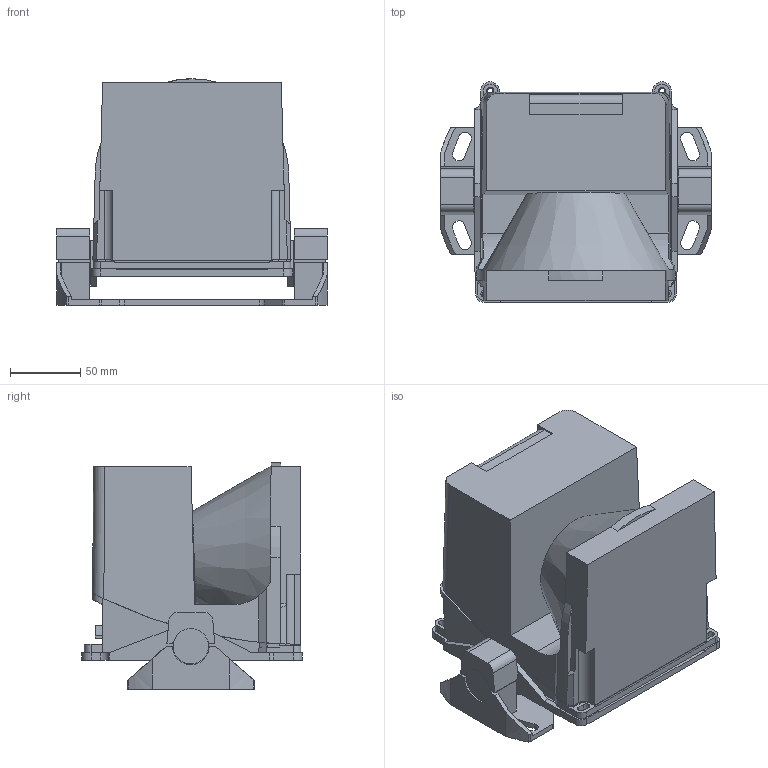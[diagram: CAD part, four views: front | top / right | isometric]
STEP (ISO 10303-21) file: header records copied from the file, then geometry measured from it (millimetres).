
FILE_DESCRIPTION((''),'2;1');
FILE_NAME('M:\INVENTORjob\Konstruktion\RS4\RS4-MS\RS4-MS mit RS4.stp','2008-04-11T13:59:01',('atull'),(''),'Autodesk Inventor 2008','Autodesk Inventor 2008','');
FILE_SCHEMA(('AUTOMOTIVE_DESIGN { 1 0 10303 214 1 1 1 1 }'));
Length unit declared in the file: millimetre
Products named in the file (6): RS4-MS; RS4-MS Grundplatte; RS4-MS-Aufnahme; RS4_MS_Schelle; RS4_FRONTSCHEIBE; RS4_Dummy
Assembly tree (6 placements, depth 2):
  RS4-MS
    RS4-MS Grundplatte
    RS4-MS-Aufnahme
    RS4_MS_Schelle  x2
    RS4_FRONTSCHEIBE
    RS4_Dummy
Bounding box: 192 x 156.45 x 160.74 mm (x, y, z)
Volume: 1388308.4 mm3; surface area: 346661.5 mm2
Topology: 6 solids, 7 shells, 360 faces, 1016 edges, 676 vertices
Faces by surface type: plane 223, cylinder 134, cone 3
Full cylindrical faces by diameter (mm): 4 x4, 7.5 x2, 9.5 x4, 10 x1
Entity records: 11834 total; most frequent: CARTESIAN_POINT 2404, ORIENTED_EDGE 1942, DIRECTION 1939, EDGE_CURVE 971, VECTOR 661, LINE 661, VERTEX_POINT 653, AXIS2_PLACEMENT_3D 639
